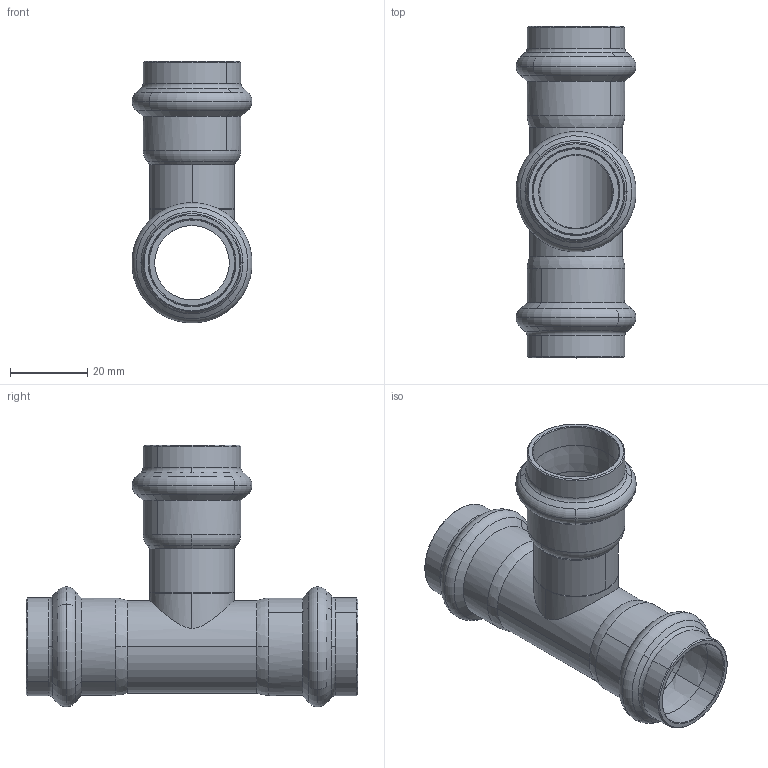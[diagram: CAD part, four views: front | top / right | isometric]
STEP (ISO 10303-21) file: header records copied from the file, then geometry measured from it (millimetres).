
FILE_DESCRIPTION(('CoCreate Modeling STEP Export'),'2;1');
FILE_NAME('8130VW22.stp','2013-01-29T16:16:00',(''),(''),'CoCreate Modeling STEP processor for AP214 (Solid Model)','CoCreate Modeling 17.00A 17-Jun-2010 (C) Parametric Technology GmbH','');
FILE_SCHEMA(('AUTOMOTIVE_DESIGN { 1 0 10303 214 1 1 1 1 }'));
Length unit declared in the file: millimetre
Products named in the file (1): 8130VW22
Bounding box: 31.08 x 86.01 x 67.78 mm (x, y, z)
Volume: 17587.9 mm3; surface area: 19807.7 mm2
Topology: 1 solids, 1 shells, 136 faces, 369 edges, 243 vertices
Faces by surface type: torus 42, cylinder 42, cone 40, plane 10, bspline 2
Entity records: 6453 total; most frequent: CARTESIAN_POINT 3662, ORIENTED_EDGE 738, DIRECTION 448, EDGE_CURVE 369, VERTEX_POINT 243, AXIS2_PLACEMENT_3D 183, EDGE_LOOP 148, FACE_OUTER_BOUND 136
